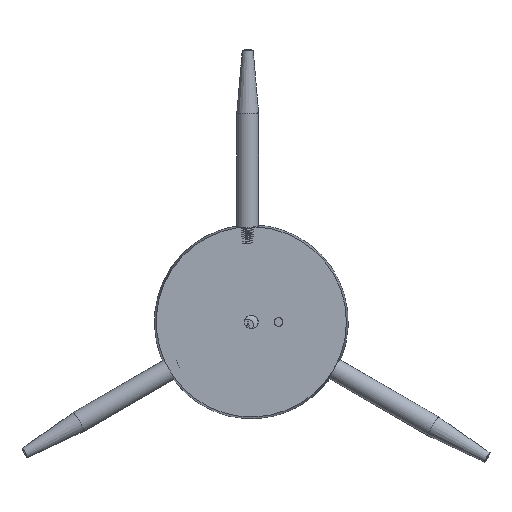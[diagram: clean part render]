
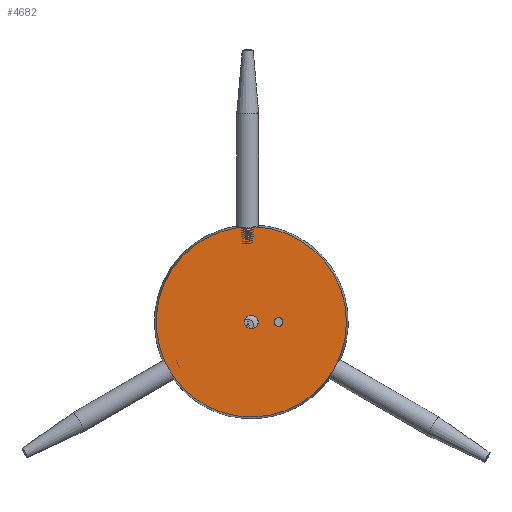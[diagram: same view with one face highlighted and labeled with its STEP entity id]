
A CAD part, front view. The second image highlights one B-rep face of the part: STEP entity #4682.
In plain terms, the highlighted planar face has unit normal (0, -1, 0) as drawn and (0, 0, 1) by its records, which use the part's own axes.
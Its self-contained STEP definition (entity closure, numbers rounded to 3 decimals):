
#692=CIRCLE('',#5046,35.);
#698=CIRCLE('',#5061,1.621);
#700=CIRCLE('',#5064,2.489);
#1070=VERTEX_POINT('',#10368);
#1083=VERTEX_POINT('',#10609);
#1085=VERTEX_POINT('',#10614);
#2366=EDGE_CURVE('',#1070,#1070,#692,.T.);
#2381=EDGE_CURVE('',#1083,#1083,#698,.T.);
#2383=EDGE_CURVE('',#1085,#1085,#700,.T.);
#3526=ORIENTED_EDGE('',*,*,#2366,.T.);
#3527=ORIENTED_EDGE('',*,*,#2381,.T.);
#3528=ORIENTED_EDGE('',*,*,#2383,.T.);
#4026=EDGE_LOOP('',(#3526));
#4027=EDGE_LOOP('',(#3527));
#4028=EDGE_LOOP('',(#3528));
#4393=FACE_BOUND('',#4026,.T.);
#4394=FACE_BOUND('',#4027,.T.);
#4395=FACE_BOUND('',#4028,.T.);
#4682=ADVANCED_FACE('',(#4393,#4394,#4395),#12245,.T.);
#5046=AXIS2_PLACEMENT_3D('',#10367,#5963,#5964);
#5061=AXIS2_PLACEMENT_3D('',#10608,#5990,#5991);
#5064=AXIS2_PLACEMENT_3D('',#10613,#5996,#5997);
#5068=AXIS2_PLACEMENT_3D('',#10618,#6003,$);
#5963=DIRECTION('',(0.,0.,1.));
#5964=DIRECTION('',(35.,0.,0.));
#5990=DIRECTION('',(0.,0.,-1.));
#5991=DIRECTION('',(0.,1.621,0.));
#5996=DIRECTION('',(0.,0.,-1.));
#5997=DIRECTION('',(0.,2.489,0.));
#6003=DIRECTION('',(0.,0.,1.));
#10367=CARTESIAN_POINT('',(0.,0.,8.));
#10368=CARTESIAN_POINT('',(-17.5,-30.311,8.));
#10608=CARTESIAN_POINT('',(0.,-10.,8.));
#10609=CARTESIAN_POINT('',(0.,-8.379,8.));
#10613=CARTESIAN_POINT('',(0.,0.,8.));
#10614=CARTESIAN_POINT('',(0.,2.489,8.));
#10618=CARTESIAN_POINT('',(0.,0.,8.));
#12245=PLANE('',#5068);
